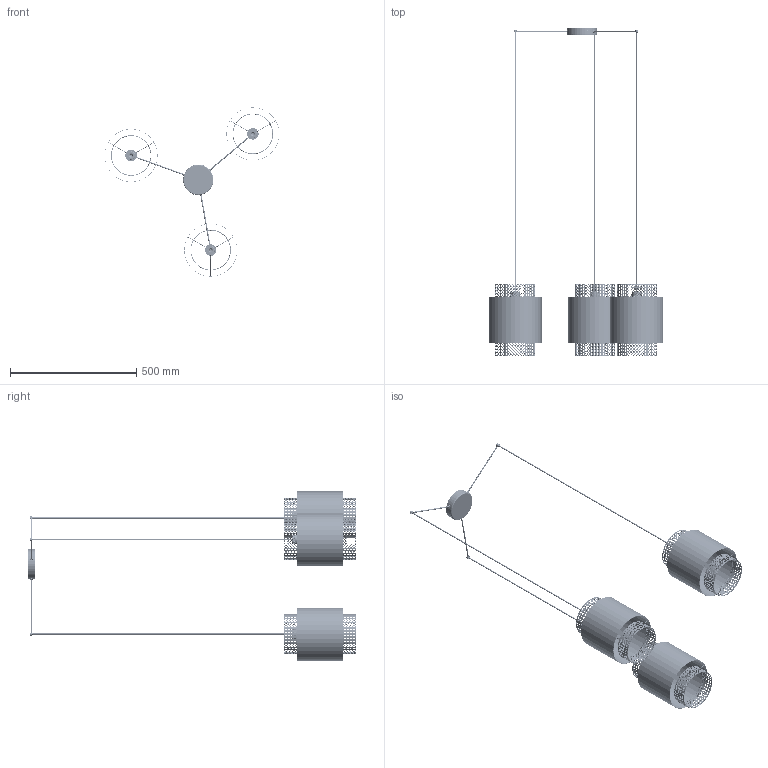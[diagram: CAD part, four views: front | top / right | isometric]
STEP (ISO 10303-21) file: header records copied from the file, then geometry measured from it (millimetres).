
FILE_DESCRIPTION(/* description */ (''),/* implementation_level */ '2;1');
FILE_NAME(/* name */ 'C:/Users/kubaw/OneDrive/Pulpit/Nowy folder (3)/6549_BOHO v5.step',/* time_stamp */ '2021-12-11T11:36:10+01:00',/* author */ (''),/* organization */ (''),/* preprocessor_version */ 'ST-DEVELOPER v18.1',/* originating_system */ 'Autodesk Translation Framework v10.10.0.1391',/* authorisation */ '');
FILE_SCHEMA (('AUTOMOTIVE_DESIGN { 1 0 10303 214 3 1 1 }'));
Length unit declared in the file: millimetre
Products named in the file (7): 6549_BOHO; KLOSZ_200_BOHO; MOCOWANIE3; MOCOWANIE3_1; MOCOWANIE3_2; MOCOWANIE_BOHO v4 (1); ŚRUBA_B v2
Assembly tree (11 placements, depth 3):
  6549_BOHO
    KLOSZ_200_BOHO  x3
    MOCOWANIE3
      MOCOWANIE_BOHO v4 (1)
    MOCOWANIE3_1
      MOCOWANIE_BOHO v4 (1)
    MOCOWANIE3_2
      MOCOWANIE_BOHO v4 (1)
    ŚRUBA_B v2  x2
Bounding box: 691.76 x 1300.6 x 670.01 mm (x, y, z)
Volume: 1044433.7 mm3; surface area: 1397304.2 mm2
Topology: 1142 solids, 1142 shells, 10953 faces, 25989 edges, 17329 vertices
Faces by surface type: cylinder 4310, plane 3316, bspline 3047, torus 277, cone 3
Full cylindrical faces by diameter (mm): 2 x18, 2.4 x9, 5 x9, 9.216 x3, 9.6 x2, 11 x3, 12 x3, 23.808 x3, 29.915 x30, 32.256 x3, 34.56 x9, 38.4 x3, 39.6 x3, 39.744 x3, 45.6 x3, 120 x1, 155.182 x12, 158.382 x12, 158.4 x60, 160 x60, 208 x3, 210 x3
Entity records: 252600 total; most frequent: CARTESIAN_POINT 172674, ORIENTED_EDGE 17526, DIRECTION 14314, EDGE_CURVE 8763, AXIS2_PLACEMENT_3D 5911, VERTEX_POINT 5841, EDGE_LOOP 3790, FACE_OUTER_BOUND 3725
